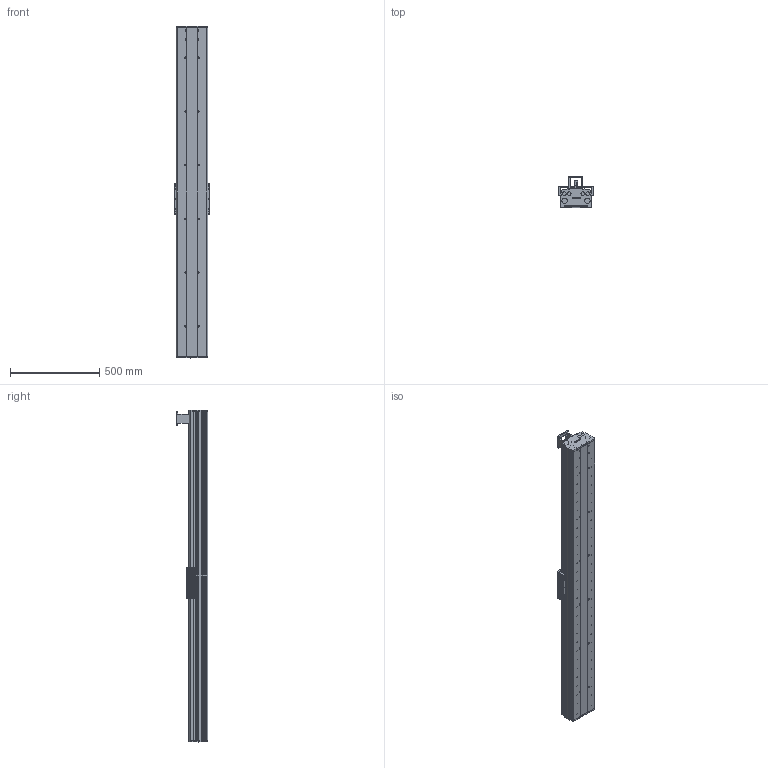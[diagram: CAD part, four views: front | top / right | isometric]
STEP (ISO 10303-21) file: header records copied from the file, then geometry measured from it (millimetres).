
FILE_DESCRIPTION (( 'STEP AP214' ), '1' );
FILE_NAME ('CF175-D-C-1500-FWU.STEP', '2016-07-15T06:59:04', ( 'Sky123.Org' ), ( 'Sky123.Org' ), 'SwSTEP 2.0', 'SolidWorks 2015', '' );
FILE_SCHEMA (( 'AUTOMOTIVE_DESIGN' ));
Length unit declared in the file: millimetre
Products named in the file (13): 8M-眻噤50-42遵-20囀謂; CF175-2肮祭湍耜啣; CF175-2-1賑雄啣; 奻狟假蚾翋雄粣; 萇儂釱; 8M-眻噤50-42遵-15囀謂; HGR20絳寢; CF-HGH20CA賑輸; CF175-2裔啣; CF175-2-2-D賑雄啣; CF175-2-D最新改良后铝型材; CF175-D-C-1500-FWU; CF175-2奻狟假蚾翋雄釱 
Assembly tree (18 placements, depth 2):
  CF175-D-C-1500-FWU
    CF175-2-D最新改良后铝型材
    CF175-2-2-D賑雄啣
    CF175-2裔啣
    CF-HGH20CA賑輸  x4
    HGR20絳寢  x2
    8M-眻噤50-42遵-15囀謂
    萇儂釱
    奻狟假蚾翋雄粣
    CF175-2-1賑雄啣
    CF175-2肮祭湍耜啣  x2
    8M-眻噤50-42遵-20囀謂
    CF175-2奻狟假蚾翋雄釱   x2
Bounding box: 200 x 174 x 1855 mm (x, y, z)
Volume: 11811115.8 mm3; surface area: 3392383.9 mm2
Topology: 22 solids, 22 shells, 1871 faces, 4874 edges, 3244 vertices
Faces by surface type: plane 998, cylinder 763, bspline 110
Entity records: 45346 total; most frequent: CARTESIAN_POINT 10841, DIRECTION 7049, ORIENTED_EDGE 6844, EDGE_CURVE 3422, AXIS2_PLACEMENT_3D 2476, VERTEX_POINT 2278, VECTOR 2097, LINE 2097
